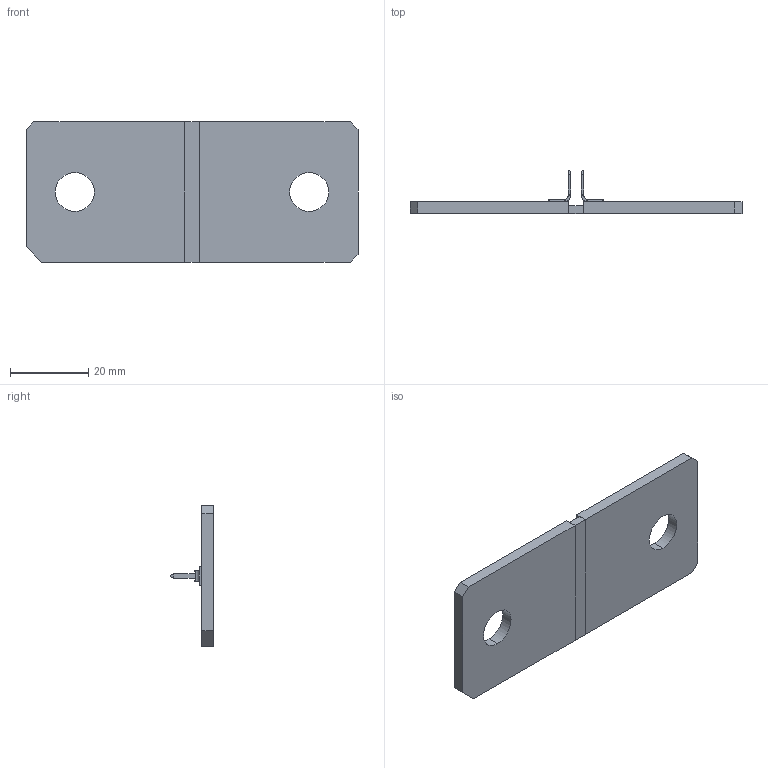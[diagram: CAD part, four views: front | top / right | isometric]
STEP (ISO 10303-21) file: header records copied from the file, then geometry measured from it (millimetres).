
FILE_DESCRIPTION (( 'STEP AP214' ), '1' );
FILE_NAME ('WSBS8536-20 25 microohm.STEP', '2021-03-09T15:40:51', ( '' ), ( '' ), 'SwSTEP 2.0', 'SolidWorks 2019', '' );
FILE_SCHEMA (( 'AUTOMOTIVE_DESIGN' ));
Length unit declared in the file: inch
Products named in the file (5): Left Terminal WSBS 8536 25 microohm; Element WSBS 8536 25 microohm; WSBS8536-20 25 microohm; Right Terminal WSBS 8536 25 microohm; SHUNT TERMINAL - VISHAY
Assembly tree (5 placements, depth 2):
  WSBS8536-20 25 microohm
    Left Terminal WSBS 8536 25 microohm
    Element WSBS 8536 25 microohm
    Right Terminal WSBS 8536 25 microohm
    SHUNT TERMINAL - VISHAY  x2
Bounding box: 84.99 x 10.99 x 35.99 mm (x, y, z)
Volume: 8563 mm3; surface area: 7200.1 mm2
Topology: 5 solids, 5 shells, 98 faces, 248 edges, 160 vertices
Faces by surface type: plane 66, cylinder 24, bspline 8
Entity records: 2158 total; most frequent: CARTESIAN_POINT 464, ORIENTED_EDGE 308, DIRECTION 298, EDGE_CURVE 154, VECTOR 110, LINE 110, VERTEX_POINT 100, AXIS2_PLACEMENT_3D 94
